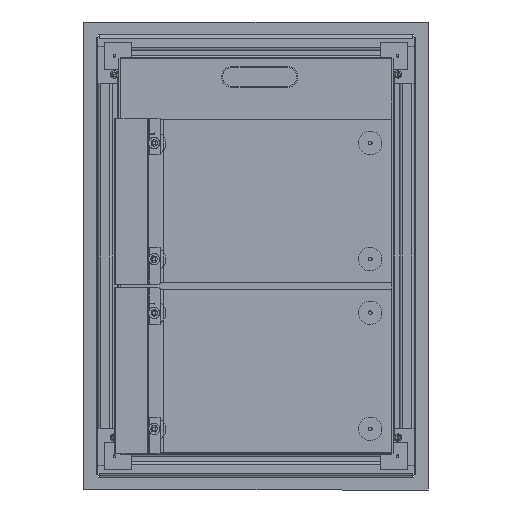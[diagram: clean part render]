
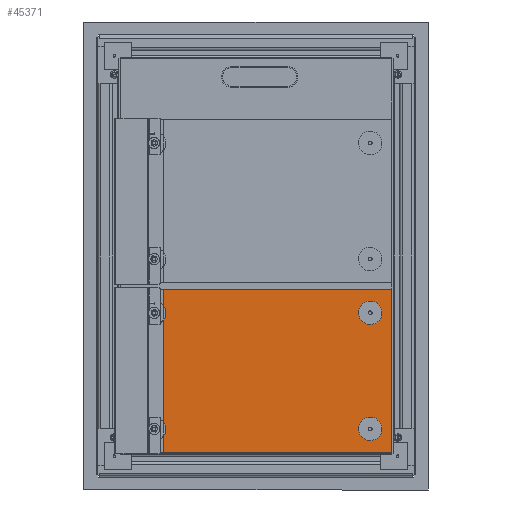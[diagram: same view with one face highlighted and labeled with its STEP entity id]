
A CAD part, front view. The second image highlights one B-rep face of the part: STEP entity #45371.
In plain terms, the highlighted planar face has unit normal (0, -1, 0).
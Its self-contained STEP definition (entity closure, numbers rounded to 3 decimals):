
#253 = EDGE_CURVE ( 'NONE', #8863, #1896, #35364, .T. ) ;
#476 = CARTESIAN_POINT ( 'NONE',  ( 285.74, -44., -74.586 ) ) ;
#1045 = DIRECTION ( 'NONE',  ( 1., 0., 0. ) ) ;
#1536 = EDGE_CURVE ( 'NONE', #45619, #34483, #16054, .T. ) ;
#1896 = VERTEX_POINT ( 'NONE', #50376 ) ;
#2040 = DIRECTION ( 'NONE',  ( 0.481, 0., -0.877 ) ) ;
#3372 = VECTOR ( 'NONE', #1045, 1000. ) ;
#4506 = CIRCLE ( 'NONE', #23951, 19. ) ;
#4895 = CARTESIAN_POINT ( 'NONE',  ( 285.74, -44., -339.586 ) ) ;
#5530 = CARTESIAN_POINT ( 'NONE',  ( -118.26, -44., -339.586 ) ) ;
#6071 = CARTESIAN_POINT ( 'NONE',  ( -84.26, -44., -339.586 ) ) ;
#8154 = VERTEX_POINT ( 'NONE', #476 ) ;
#8442 = DIRECTION ( 'NONE',  ( 0., -1., 0. ) ) ;
#8863 = VERTEX_POINT ( 'NONE', #6071 ) ;
#9132 = EDGE_CURVE ( 'NONE', #12369, #62994, #16311, .T. ) ;
#9225 = CARTESIAN_POINT ( 'NONE',  ( 250.74, -44., -301.086 ) ) ;
#10323 = DIRECTION ( 'NONE',  ( 0.481, 0., -0.877 ) ) ;
#10976 = AXIS2_PLACEMENT_3D ( 'NONE', #61631, #55560, #2040 ) ;
#11017 = CARTESIAN_POINT ( 'NONE',  ( 250.74, -44., -301.086 ) ) ;
#12369 = VERTEX_POINT ( 'NONE', #18782 ) ;
#13677 = DIRECTION ( 'NONE',  ( 0.481, 0., -0.877 ) ) ;
#14293 = EDGE_CURVE ( 'NONE', #8863, #46406, #49446, .T. ) ;
#14457 = FACE_BOUND ( 'NONE', #57329, .T. ) ;
#16054 = CIRCLE ( 'NONE', #10976, 19. ) ;
#16311 = CIRCLE ( 'NONE', #58334, 19. ) ;
#18782 = CARTESIAN_POINT ( 'NONE',  ( 241.607, -44., -284.425 ) ) ;
#19197 = VECTOR ( 'NONE', #30072, 1000. ) ;
#19285 = FACE_OUTER_BOUND ( 'NONE', #61915, .T. ) ;
#23106 = CARTESIAN_POINT ( 'NONE',  ( 241.607, -44., -96.425 ) ) ;
#23481 = CARTESIAN_POINT ( 'NONE',  ( 259.872, -44., -317.748 ) ) ;
#23951 = AXIS2_PLACEMENT_3D ( 'NONE', #53608, #58103, #10323 ) ;
#24436 = PLANE ( 'NONE',  #27235 ) ;
#24826 = DIRECTION ( 'NONE',  ( 0.481, 0., -0.877 ) ) ;
#27047 = DIRECTION ( 'NONE',  ( -1., 0., 0. ) ) ;
#27235 = AXIS2_PLACEMENT_3D ( 'NONE', #4895, #8442, #52664 ) ;
#28241 = ORIENTED_EDGE ( 'NONE', *, *, #48136, .T. ) ;
#28928 = FACE_BOUND ( 'NONE', #55988, .T. ) ;
#29750 = CARTESIAN_POINT ( 'NONE',  ( 285.74, -44., -339.586 ) ) ;
#30072 = DIRECTION ( 'NONE',  ( 0., 0., 1. ) ) ;
#30266 = DIRECTION ( 'NONE',  ( 0., 1., 0. ) ) ;
#30834 = DIRECTION ( 'NONE',  ( 0., 0., 1. ) ) ;
#31857 = LINE ( 'NONE', #51392, #49960 ) ;
#32045 = ORIENTED_EDGE ( 'NONE', *, *, #9132, .T. ) ;
#34483 = VERTEX_POINT ( 'NONE', #55536 ) ;
#34636 = ORIENTED_EDGE ( 'NONE', *, *, #62981, .T. ) ;
#34989 = ORIENTED_EDGE ( 'NONE', *, *, #14293, .T. ) ;
#35364 = LINE ( 'NONE', #54562, #35777 ) ;
#35777 = VECTOR ( 'NONE', #30834, 1000. ) ;
#35849 = CARTESIAN_POINT ( 'NONE',  ( 285.74, -44., -339.586 ) ) ;
#38782 = EDGE_CURVE ( 'NONE', #62994, #12369, #51576, .T. ) ;
#44502 = DIRECTION ( 'NONE',  ( 0., 1., 0. ) ) ;
#44775 = ORIENTED_EDGE ( 'NONE', *, *, #52104, .T. ) ;
#45371 = ADVANCED_FACE ( 'NONE', ( #28928, #14457, #19285 ), #24436, .T. ) ;
#45619 = VERTEX_POINT ( 'NONE', #23106 ) ;
#46406 = VERTEX_POINT ( 'NONE', #35849 ) ;
#46545 = ORIENTED_EDGE ( 'NONE', *, *, #1536, .T. ) ;
#48136 = EDGE_CURVE ( 'NONE', #34483, #45619, #4506, .T. ) ;
#49446 = LINE ( 'NONE', #5530, #3372 ) ;
#49960 = VECTOR ( 'NONE', #27047, 1000. ) ;
#50376 = CARTESIAN_POINT ( 'NONE',  ( -84.26, -44., -74.586 ) ) ;
#51392 = CARTESIAN_POINT ( 'NONE',  ( -118.26, -44., -74.586 ) ) ;
#51576 = CIRCLE ( 'NONE', #59768, 19. ) ;
#52104 = EDGE_CURVE ( 'NONE', #46406, #8154, #58625, .T. ) ;
#52664 = DIRECTION ( 'NONE',  ( 1., 0., 0. ) ) ;
#53608 = CARTESIAN_POINT ( 'NONE',  ( 250.74, -44., -113.086 ) ) ;
#54562 = CARTESIAN_POINT ( 'NONE',  ( -84.26, -44., -339.586 ) ) ;
#55486 = ORIENTED_EDGE ( 'NONE', *, *, #38782, .T. ) ;
#55536 = CARTESIAN_POINT ( 'NONE',  ( 259.872, -44., -129.748 ) ) ;
#55560 = DIRECTION ( 'NONE',  ( 0., 1., 0. ) ) ;
#55988 = EDGE_LOOP ( 'NONE', ( #28241, #46545 ) ) ;
#57329 = EDGE_LOOP ( 'NONE', ( #55486, #32045 ) ) ;
#58103 = DIRECTION ( 'NONE',  ( 0., 1., 0. ) ) ;
#58334 = AXIS2_PLACEMENT_3D ( 'NONE', #11017, #30266, #24826 ) ;
#58625 = LINE ( 'NONE', #29750, #19197 ) ;
#59066 = ORIENTED_EDGE ( 'NONE', *, *, #253, .F. ) ;
#59768 = AXIS2_PLACEMENT_3D ( 'NONE', #9225, #44502, #13677 ) ;
#61631 = CARTESIAN_POINT ( 'NONE',  ( 250.74, -44., -113.086 ) ) ;
#61915 = EDGE_LOOP ( 'NONE', ( #59066, #34989, #44775, #34636 ) ) ;
#62981 = EDGE_CURVE ( 'NONE', #8154, #1896, #31857, .T. ) ;
#62994 = VERTEX_POINT ( 'NONE', #23481 ) ;
